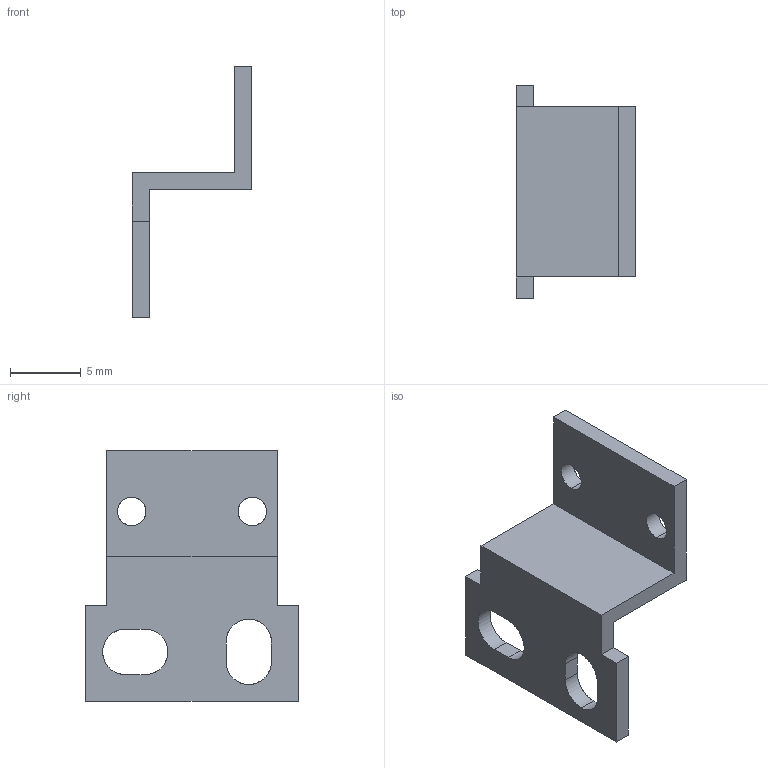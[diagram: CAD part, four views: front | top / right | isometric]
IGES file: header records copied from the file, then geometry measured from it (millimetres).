
Start section: SolidWorks IGES file using analytic representation for surfaces
Global section: file name: C:\catalog\ms-exz-3.IGS; native system: SolidWorks 2010; preprocessor: SolidWorks 2010; author: hi1633; date: 150421.101337; units: millimetre
Bounding box: 8.45 x 15 x 17.7 mm (x, y, z)
Surface area: 718.8 mm2 (no closed solid volume)
Topology: 0 solids, 0 shells, 27 faces, 388 edges, 388 vertices
Faces by surface type: bspline 18, revolution 9
